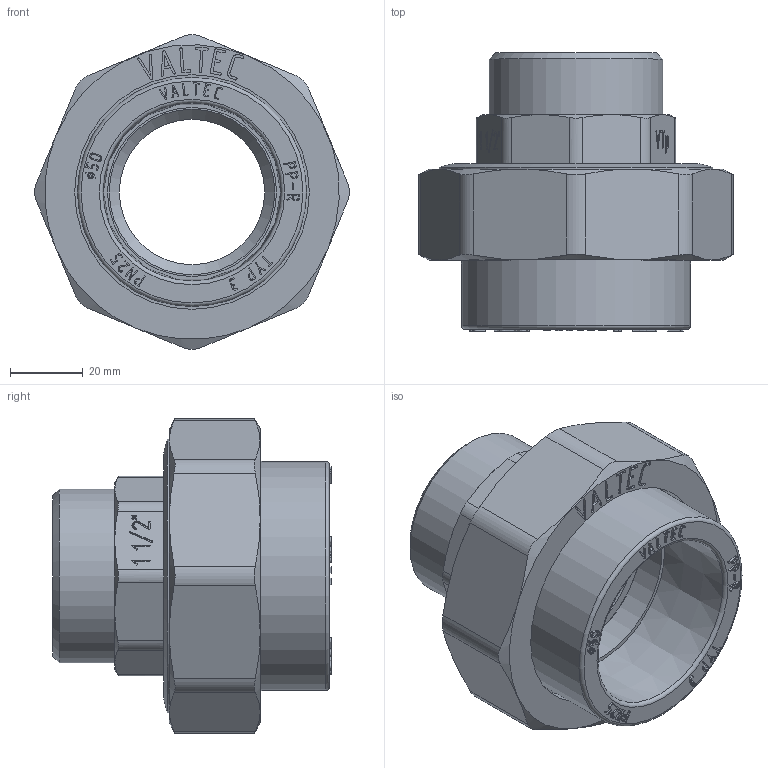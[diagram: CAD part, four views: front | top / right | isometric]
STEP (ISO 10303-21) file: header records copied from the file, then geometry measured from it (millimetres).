
FILE_DESCRIPTION(('STEP AP203'), '1');
FILE_NAME('VTp.761.0.05008', '', ('UNSPECIFIED'), ('UNSPECIFIED'), 'C3D Converter', 'C3D Toolkit', '');
FILE_SCHEMA(('CONFIG_CONTROL_DESIGN'));
Length unit declared in the file: millimetre
Products named in the file (1): ВР.302634.104.000 СБ
Bounding box: 86.52 x 76.5 x 86.52 mm (x, y, z)
Volume: 138555.9 mm3; surface area: 57445.6 mm2
Topology: 4 solids, 4 shells, 895 faces, 2465 edges, 1632 vertices
Faces by surface type: extrusion 488, plane 344, cylinder 29, cone 28, torus 6
Full cylindrical faces by diameter (mm): 40 x1, 45.5 x1, 46.5 x1, 47.803 x1, 50.5 x1, 51 x1, 63 x1, 64.5 x1, 66.5 x1, 67 x1, 71.5 x1, 72.227 x1, 75.184 x1
Entity records: 30788 total; most frequent: CARTESIAN_POINT 10025, ORIENTED_EDGE 4878, DIRECTION 2767, EDGE_CURVE 2439, VECTOR 1813, VERTEX_POINT 1632, B_SPLINE_CURVE_WITH_KNOTS 1533, LINE 1325
